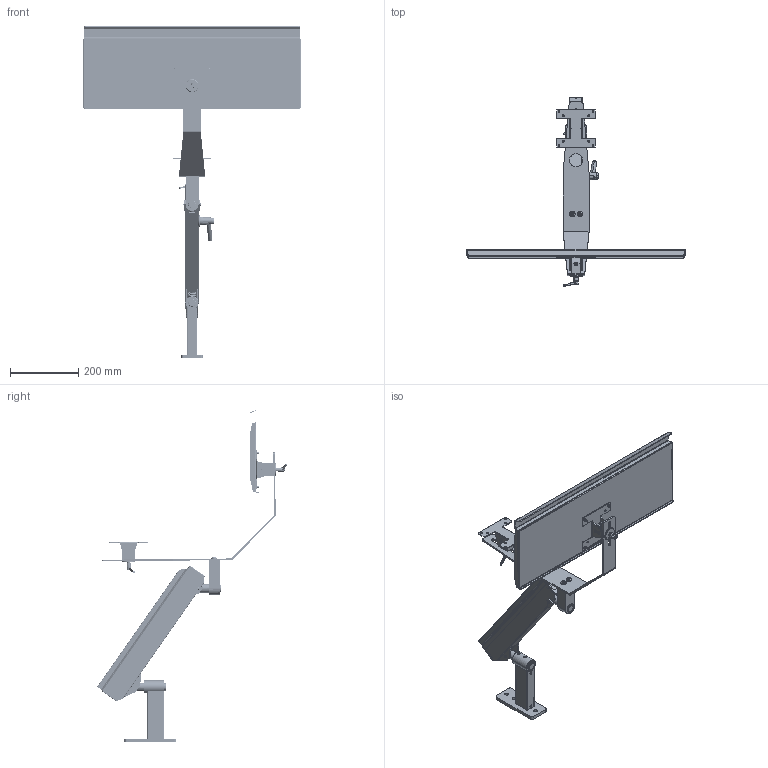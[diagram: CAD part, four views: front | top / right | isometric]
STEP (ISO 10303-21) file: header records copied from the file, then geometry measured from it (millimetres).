
FILE_DESCRIPTION (( 'STEP AP203' ), '1' );
FILE_NAME ('70-8646-00 REV AA, IND. FLEX 360 WORKSTATION, 18-43 LB - DOWN.STEP', '2025-09-30T23:06:42', ( '' ), ( '' ), 'SwSTEP 2.0', 'SolidWorks 2025', '' );
FILE_SCHEMA (( 'CONFIG_CONTROL_DESIGN' ));
Length unit declared in the file: inch
Products named in the file (61): 71-0038-RX REV AA, PIVOT, KNUCKLE, ELECTROLESS NICKEL; 71-1033-RX REV AA, BOLT, ADJUSTING, 10.9; 011-020-00 REV AA, PIN, KNURLED, 1.0LG x .25OD; 016-007-00, OILITE PLUS BEARING, 0.876 id x 1.002 od x 0.75 lg; 71-0030-RX REV AA, KNUCKLE, LOAD_MACHINE; 005-084-00, BOLT, 1''4-20x2.75; 71-0070-RX REV AA, AXLE PIN, SHORT; 016-070-00, BEARING, PLASTIC, .5ID x .625 OD x .75; 70-0080-00 REV AA, INTEGRATED WORKSTATION_TRAY HORIZONTAL; 11-0027-RX REV AA, PLASTIC DISC, BRAKE ASSEMBLY_MACHINE; 41-0063-RX REV AA, PIN, TILT, VESA; 42-0060-00 REV AA, VESA SUB ASSEMBLY, INT. WORKSTATION; 006-004-00_006-004-00; 71-0040-RX REV AA, BRAKE BLOCK, WIDE_MACHINE; 71-1051-RX REV AA, SPRING BLOCK; 41-0060-ANX REV AA, BODY, VESA, INT. WORKSTATION, BLACK; 70-8646-00 REV AA, IND. FLEX 360 WORKSTATION, 18-43 LB - DOWN; 70-1343-00 REV AA, FLEX SECTION, 13.5in, 18-43 LB_Angle Down; 019-004_019-004; 11-0028-RX REV AA, PLASTIC DISC, VESA; 41-0060-RX REV AA, BODY, VESA, INT. WORKSTATION; 71-0972-99 REV AA, END CAP, FLEX; 002-306-00, BHSCS, 3''8-16 x .625; 010-012-00, RETAINING RING, EXTERNAL, .875in SHAFT; 70-0072-00 REV AA, EXTENSION ARM; 71-1300-RX REV AA, HOUSING, 13.5in FLEX; 11-0062-BLKX REV AA, BRACKET, VESA, SHEETMETAL, BLACK; 71-0037-RX REV AA, PIVOT, THREADED; 006-059-00; 11-0406-BLKX REV AA, KEYBOARD TRAY, 25x8, BLACK; 71-0031-RX REV AA, KNUCKLE, MOUNT_MACHINE; 71-0071-RX REV AA, AXLE PIN, LONG; 70-0269-00 REV AA, CABLE COVER, 13.5in FLEX, BLACK; 002-088-00, FHSCS 10-32 x .5L, BO_002-088-00; 71-0029-RX REV AA, TAB, LOAD; 11-0650-00 REV AA, BRAKE HANDLE ASSEMBLY; 71-0072-RX REV AA, EXTENSION ARM, RAW; 71-0091-RX REV AA, HOUSING, WALL MOUNT, 6in EXTENSION; 71-1032-RX REV AA, SPRING ROD, 13.5in FLEX; 11-0602-RX REV AA, HANDLE, BRAKE ASSEMBLY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
Assembly tree (107 placements, depth 5):
  70-8646-00 REV AA, IND. FLEX 360 WORKSTATION, 18-43 LB - DOWN
    70-0095-00 REV AA, STUD MOUNT, 6in EXT
      71-0217-RX REV AA, PLATE, NARROW WALL MOUNT_Laser
      71-0091-RX REV AA, HOUSING, WALL MOUNT, 6in EXTENSION
      71-2113-RX REV AA, HOUSING, BEARING, TALL, 1.5OD_MACHINE
      016-007-00, OILITE PLUS BEARING, 0.876 id x 1.002 od x 0.75 lg
      016-008-00, OILITE PLUS BEARING, 0.876 id x 1.002 od x 1.25 lg
      007-036-00, SHSS, 1''4-28, .25L_007-036-00
    70-1343-00 REV AA, FLEX SECTION, 13.5in, 18-43 LB_Angle Down
      71-0031-RX REV AA, KNUCKLE, MOUNT_MACHINE
      71-1032-RX REV AA, SPRING ROD, 13.5in FLEX
      71-0030-RX REV AA, KNUCKLE, LOAD_MACHINE
      71-0038-RX REV AA, PIVOT, KNUCKLE, ELECTROLESS NICKEL
      71-1033-RX REV AA, BOLT, ADJUSTING, 10.9
      71-0037-RX REV AA, PIVOT, THREADED
      71-0040-RX REV AA, BRAKE BLOCK, WIDE_MACHINE
      71-1051-RX REV AA, SPRING BLOCK
      71-1301-BLKX REV AA, FLEX HOUSING, 13.5in, BLACK_Weld
        71-1300-RX REV AA, HOUSING, 13.5in FLEX
        71-0029-RX REV AA, TAB, LOAD  x2
        71-0028-RX REV AA, TAB, MOUNT_MACHINE  x2
      71-0070-RX REV AA, AXLE PIN, SHORT
      71-0071-RX REV AA, AXLE PIN, LONG
      71-0972-99 REV AA, END CAP, FLEX  x2
      11-0027-RX REV AA, PLASTIC DISC, BRAKE ASSEMBLY_MACHINE
      11-0650-00 REV AA, BRAKE HANDLE ASSEMBLY
        11-0601-99 REV AA, CONICAL KNOB, BRAKE ASSEMBLY
        11-0602-RX REV AA, HANDLE, BRAKE ASSEMBLY
        11-0027-RX REV AA, PLASTIC DISC, BRAKE ASSEMBLY_MACHINE
        005-084-00, BOLT, 1''4-20x2.75
      006-004-00_006-004-00  x2
      002-041-00_002-041-00  x2
      010-012-00, RETAINING RING, EXTERNAL, .875in SHAFT  x2
      010-011-00, RETAINING RING, EXT, .250 SHAFT_010-011-00  x4
      011-033-00
      004-050-00, WASHER, FIBER, .032 THK, .265ID  x8
      011-020-00 REV AA, PIN, KNURLED, 1.0LG x .25OD  x2
      004-144-00  x3
      006-059-00
      013-036-00, SPRING, GREEN, 1x8_ISO425203
      016-070-00, BEARING, PLASTIC, .5ID x .625 OD x .75  x2
    70-0080-00 REV AA, INTEGRATED WORKSTATION_TRAY HORIZONTAL
      11-0405-BLKX REV AA, BRACKET, INTEGRATED WORKSTATION, BLACK
      42-0060-00 REV AA, VESA SUB ASSEMBLY, INT. WORKSTATION
        41-0060-ANX REV AA, BODY, VESA, INT. WORKSTATION, BLACK
          41-0060-RX REV AA, BODY, VESA, INT. WORKSTATION
        41-0063-RX REV AA, PIN, TILT, VESA
        11-0062-BLKX REV AA, BRACKET, VESA, SHEETMETAL, BLACK
        11-0027-RX REV AA, PLASTIC DISC, BRAKE ASSEMBLY_MACHINE
        025-064-00, LOCK LEVER, QUARTER20 x .390
        016-012-00, OILITE PLUS BEARING, .876 IDx1.0 OD x 1.0
        007-034-00, SHSS, .375-24, .25L_007-034-00
        11-0028-RX REV AA, PLASTIC DISC, VESA  x2
        002-088-00, FHSCS 10-32 x .5L, BO_002-088-00  x4
      11-0406-BLKX REV AA, KEYBOARD TRAY, 25x8, BLACK
      70-0072-00 REV AA, EXTENSION ARM
        71-0072-RX REV AA, EXTENSION ARM, RAW
        016-008-00, OILITE PLUS BEARING, 0.876 id x 1.002 od x 1.25 lg
        007-017-00, SHSS, 1''4-20, .25L_DEFAULT
      002-306-00, BHSCS, 3''8-16 x .625  x2
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Bounding box: 641.2 x 556.94 x 975.24 mm (x, y, z)
Volume: 1590158.7 mm3; surface area: 1081693 mm2
Topology: 104 solids, 104 shells, 3313 faces, 8111 edges, 5014 vertices
Faces by surface type: cylinder 1491, plane 888, cone 708, torus 129, bspline 87, sphere 10
Entity records: 100605 total; most frequent: CARTESIAN_POINT 55057, ORIENTED_EDGE 7992, DIRECTION 7812, EDGE_CURVE 3996, AXIS2_PLACEMENT_3D 2993, VERTEX_POINT 2470, LINE 1826, VECTOR 1826
